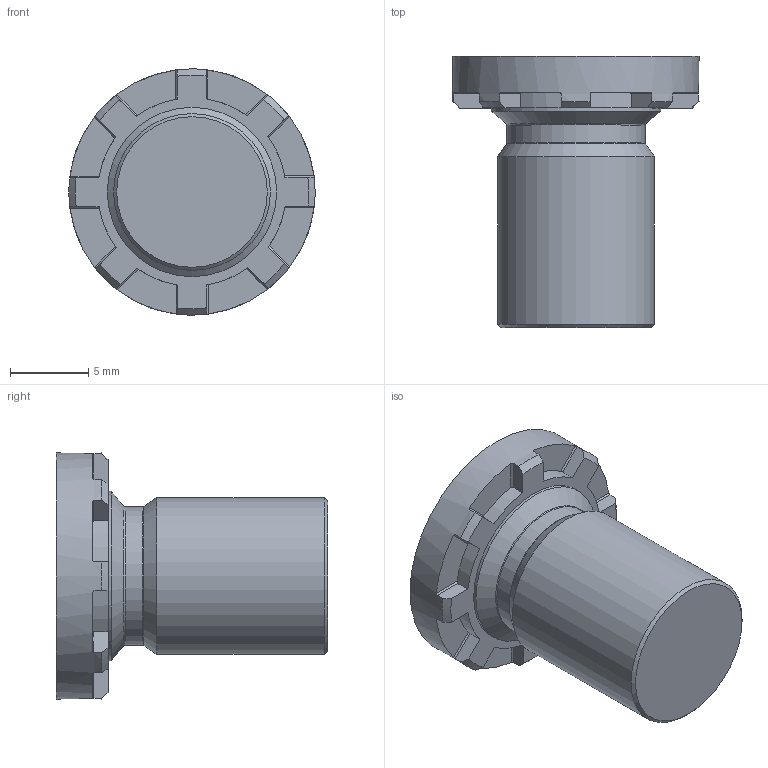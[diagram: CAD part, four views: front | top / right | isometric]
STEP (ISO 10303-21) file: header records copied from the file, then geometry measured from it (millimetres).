
FILE_DESCRIPTION(/* description */ (''),/* implementation_level */ '2;1');
FILE_NAME(/* name */ 'C:\Users\keval.kumar\Desktop\Fastit\Clinch Screw- HFH Range\M10\Clinch Screw-HFH Range_M10x15.stp',/* time_stamp */ '2024-03-12T15:11:42+06:00',/* author */ ('keval.kumar'),/* organization */ (''),/* preprocessor_version */ 'ST-DEVELOPER v18.1',/* originating_system */ 'Autodesk Inventor 2022',/* authorisation */ '');
FILE_SCHEMA (('AUTOMOTIVE_DESIGN { 1 0 10303 214 3 1 1 }'));
Length unit declared in the file: millimetre
Products named in the file (1): Clinch Screw-HFH Range_M10x15
Bounding box: 15.7 x 17.29 x 15.7 mm (x, y, z)
Volume: 1653 mm3; surface area: 997.7 mm2
Topology: 1 solids, 1 shells, 68 faces, 193 edges, 128 vertices
Faces by surface type: plane 43, cylinder 12, cone 11, torus 2
Full cylindrical faces by diameter (mm): 8.8 x1, 10 x1, 10.8 x1, 15.7 x1
Entity records: 2278 total; most frequent: CARTESIAN_POINT 422, DIRECTION 405, ORIENTED_EDGE 386, EDGE_CURVE 193, AXIS2_PLACEMENT_3D 159, VERTEX_POINT 128, LINE 87, VECTOR 87
